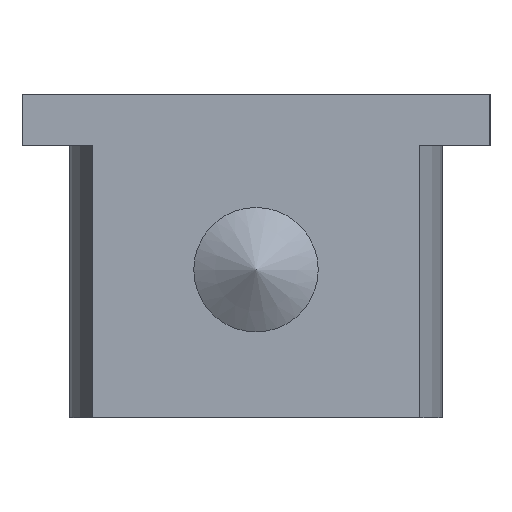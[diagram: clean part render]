
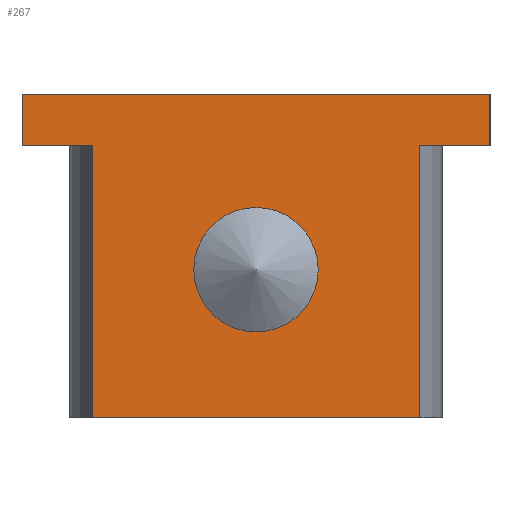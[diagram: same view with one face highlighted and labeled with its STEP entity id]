
A CAD part, left-side view. The second image highlights one B-rep face of the part: STEP entity #267.
In plain terms, the highlighted planar face has unit normal (-1, 0, 0).
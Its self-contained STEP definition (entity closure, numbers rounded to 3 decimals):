
#57=FACE_OUTER_BOUND('',#72,.T.);
#72=EDGE_LOOP('',(#212,#213,#214,#215,#216,#217,#218,#219));
#82=LINE('',#481,#102);
#88=LINE('',#496,#108);
#89=LINE('',#505,#109);
#90=LINE('',#507,#110);
#92=LINE('',#516,#112);
#94=LINE('',#522,#114);
#95=LINE('',#524,#115);
#96=LINE('',#525,#116);
#102=VECTOR('',#389,10.);
#108=VECTOR('',#403,10.);
#109=VECTOR('',#412,10.);
#110=VECTOR('',#413,10.);
#112=VECTOR('',#423,10.);
#114=VECTOR('',#431,10.);
#115=VECTOR('',#432,10.);
#116=VECTOR('',#433,10.);
#121=VERTEX_POINT('',#477);
#123=VERTEX_POINT('',#480);
#127=VERTEX_POINT('',#492);
#128=VERTEX_POINT('',#494);
#132=VERTEX_POINT('',#503);
#133=VERTEX_POINT('',#506);
#136=VERTEX_POINT('',#514);
#138=VERTEX_POINT('',#523);
#147=EDGE_CURVE('',#121,#123,#82,.T.);
#155=EDGE_CURVE('',#127,#128,#88,.T.);
#159=EDGE_CURVE('',#132,#128,#89,.T.);
#160=EDGE_CURVE('',#123,#133,#90,.T.);
#165=EDGE_CURVE('',#132,#136,#92,.T.);
#168=EDGE_CURVE('',#127,#121,#94,.T.);
#169=EDGE_CURVE('',#138,#136,#95,.T.);
#170=EDGE_CURVE('',#133,#138,#96,.T.);
#212=ORIENTED_EDGE('',*,*,#168,.F.);
#213=ORIENTED_EDGE('',*,*,#155,.T.);
#214=ORIENTED_EDGE('',*,*,#159,.F.);
#215=ORIENTED_EDGE('',*,*,#165,.T.);
#216=ORIENTED_EDGE('',*,*,#169,.F.);
#217=ORIENTED_EDGE('',*,*,#170,.F.);
#218=ORIENTED_EDGE('',*,*,#160,.F.);
#219=ORIENTED_EDGE('',*,*,#147,.F.);
#257=PLANE('',#363);
#267=ADVANCED_FACE('',(#57),#257,.T.);
#363=AXIS2_PLACEMENT_3D('',#521,#429,#430);
#389=DIRECTION('',(0.,0.,-1.));
#403=DIRECTION('',(0.,0.,-1.));
#412=DIRECTION('',(0.,1.,0.));
#413=DIRECTION('',(0.,1.,0.));
#423=DIRECTION('',(0.,0.,-1.));
#429=DIRECTION('center_axis',(-1.,0.,0.));
#430=DIRECTION('ref_axis',(0.,1.,0.));
#431=DIRECTION('',(0.,-1.,0.));
#432=DIRECTION('',(0.,1.,0.));
#433=DIRECTION('',(0.,0.,-1.));
#477=CARTESIAN_POINT('',(0.,-9.4,0.));
#480=CARTESIAN_POINT('',(0.,-9.4,-2.05));
#481=CARTESIAN_POINT('',(0.,-9.4,0.));
#492=CARTESIAN_POINT('',(0.,9.4,0.));
#494=CARTESIAN_POINT('',(0.,9.4,-2.05));
#496=CARTESIAN_POINT('',(0.,9.4,0.));
#503=CARTESIAN_POINT('',(0.,6.58,-2.05));
#505=CARTESIAN_POINT('',(0.,9.4,-2.05));
#506=CARTESIAN_POINT('',(0.,-6.58,-2.05));
#507=CARTESIAN_POINT('',(0.,9.4,-2.05));
#514=CARTESIAN_POINT('',(0.,6.58,-13.));
#516=CARTESIAN_POINT('',(0.,6.58,0.));
#521=CARTESIAN_POINT('Origin',(0.,-6.58,0.));
#522=CARTESIAN_POINT('',(0.,6.58,0.));
#523=CARTESIAN_POINT('',(0.,-6.58,-13.));
#524=CARTESIAN_POINT('',(0.,6.58,-13.));
#525=CARTESIAN_POINT('',(0.,-6.58,0.));
